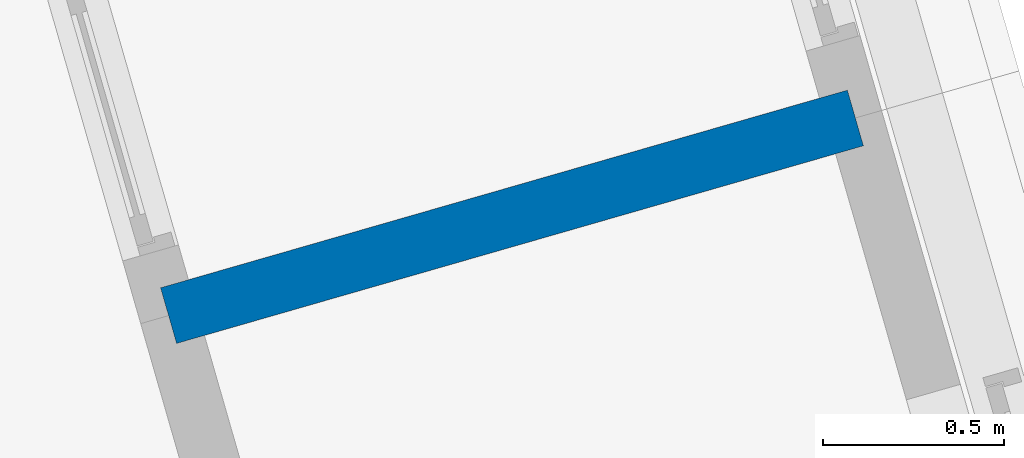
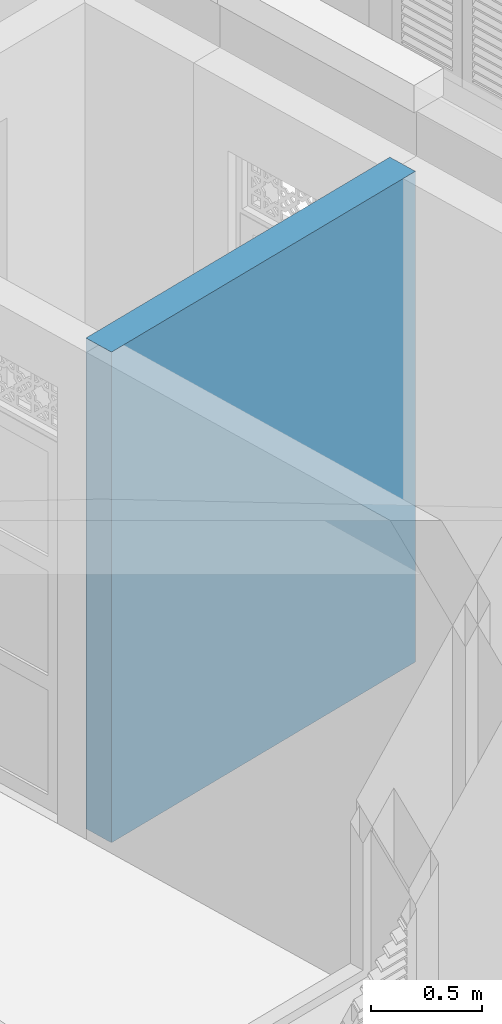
# One storey, part 4 of 22: 1 wall.
"""IFC4 building model written with IfcOpenShell, lengths in metres."""

from ifc_helpers import new_model, si_unit, frame, origin_with_axes, place, context, subcontext, project, spatial, polyline, outline, extrude, material, layer, layer_set, layer_usage, type_object, element, save


model = new_model("IFC4")

# Units and contexts
model_context = context("Model", 3, world=origin_with_axes())
body_context = subcontext(model_context, "Body", "Model", "MODEL_VIEW")
ifc_project = project(units=[si_unit("PLANEANGLEUNIT", "RADIAN"), si_unit("MASSUNIT", "GRAM", prefix="KILO"), si_unit("FORCEUNIT", "NEWTON", prefix="KILO"), si_unit("LENGTHUNIT", "METRE"), si_unit("AREAUNIT", "SQUARE_METRE"), si_unit("VOLUMEUNIT", "CUBIC_METRE")], contexts=[model_context, model_context])

# Site, building, storey
site_placement = place(None, origin_with_axes())
site = spatial("IfcSite", under=ifc_project, at=site_placement, Name="Site plot-9", CompositionType="ELEMENT")
building_placement = place(None, origin_with_axes())
building = spatial("IfcBuilding", under=site, at=building_placement, Name="Building plot-9", CompositionType="ELEMENT")
storey_placement = place(None, frame((0.0, 0.0, 2.85), z_axis=(0.0, 0.0, 1.0), x_axis=(1.0, 0.0, 0.0)))
storey = spatial("IfcBuildingStorey", under=building, at=storey_placement, Name="plot-9 1", CompositionType="ELEMENT", Elevation=2.85)

# Wall
ifc_material = material(Name="Masonry")
ifc_layer = layer(ifc_material, 0.16, ventilated=False)
ifc_layer_set = layer_set([ifc_layer], Name="interior_0.08_0.08")
ifc_layer_usage = layer_usage(ifc_layer_set, "AXIS2", "POSITIVE", -0.08)
wall_type = type_object("IfcWallType", Name="interior_0.08_0.08", PredefinedType="SOLIDWALL", material=ifc_layer_set)
wall_placement = place(storey_placement, frame((-18.6477589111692, -3.86146652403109, 0.0), z_axis=(0.0, 0.0, 1.0), x_axis=(0.961007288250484, 0.276523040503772, 0.0)))
element("IfcWall", 1, at=wall_placement, inside=storey, type_object=wall_type, material=ifc_layer_usage, Name="interior", context=body_context, shape_type="SweptSolid", body=[
    extrude(outline(polyline([(-1.02538837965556e-15, 0.0800000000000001), (1.03518555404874e-15, -0.0800000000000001), (1.97379557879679, -0.0799999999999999), (1.97379557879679, 0.0800000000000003), (-1.02538837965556e-15, 0.0800000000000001)])), origin_with_axes(), (0.0, 0.0, 1.0), 2.7),
])

save(model, "model.ifc")
